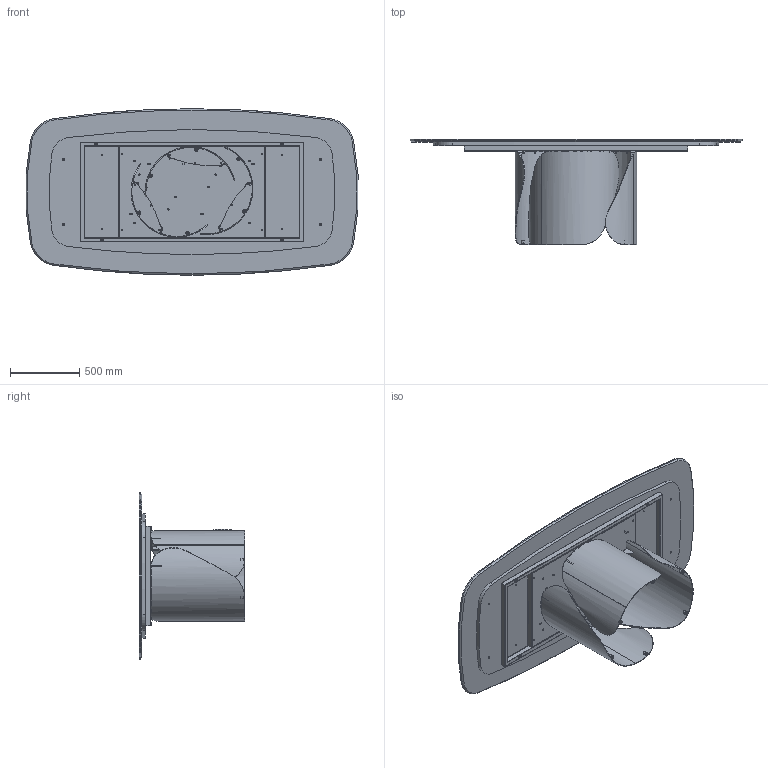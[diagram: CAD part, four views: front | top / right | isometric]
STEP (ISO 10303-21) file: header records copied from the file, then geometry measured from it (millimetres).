
FILE_DESCRIPTION (( 'STEP AP203' ), '1' );
FILE_NAME ('ON43M.STEP', '2024-08-06T13:55:23', ( '' ), ( '' ), 'SwSTEP 2.0', 'SolidWorks 2022', '' );
FILE_SCHEMA (( 'CONFIG_CONTROL_DESIGN' ));
Length unit declared in the file: millimetre
Products named in the file (17): TRUXXXXXX-00-NOBILITATO GR CON SUPP TRUCIOLARE SP. 25_TRU00007_2100x900; OND000000-03-ONDA BASE GREZZA; COLLO BASE ONDA SINGOLA CON FERRAMENTA; M8xXXmm_M8x55mm; TTAV0601_02-00-VASSOIO TAVOLI PLAI ONDA NOA 240; ON43M; OND000000_03-00-LAMIERA CURVATA PRINCIPALE_OND00000X-00-ONDA BASE GREZZA PROTOTIPO; M4XMXX-00-Piani Sagomati in marmo_2400x1200; rondella M8_8X24; TTAV0601-00-TELAIO X TAVOLI PLAI ONDA NOA 240cm_TTAV06; M8xXXmm_M8x20mm; OND000000_01-00-PIASTRA SUPERIORE BASE ONDA; OND000000_02-00-CILINDRO DI FISSAGGIO Ø25X17 M8; COLLO TELAIO UNIVERSALE TTAV0601 CON FERRAMENTA_FERRAMENTA MTG TOP LEGNO-MARMO-KING; PIEDINO PER ONDA; TTAV0601_01-00-STRUTTURA X TAVOLI PLAI ONDA NOA 240; M4X-00-Piani Sagomati in marmo_2400 x 1200
Assembly tree (49 placements, depth 4):
  ON43M
    COLLO TELAIO UNIVERSALE TTAV0601 CON FERRAMENTA_FERRAMENTA MTG TOP LEGNO-MARMO-KING
      TTAV0601-00-TELAIO X TAVOLI PLAI ONDA NOA 240cm_TTAV06
        TTAV0601_02-00-VASSOIO TAVOLI PLAI ONDA NOA 240
        TTAV0601_01-00-STRUTTURA X TAVOLI PLAI ONDA NOA 240
      rondella M8_8X24  x4
      M8xXXmm_M8x55mm  x4
    COLLO BASE ONDA SINGOLA CON FERRAMENTA  x3
      OND000000-03-ONDA BASE GREZZA
        OND000000_03-00-LAMIERA CURVATA PRINCIPALE_OND00000X-00-ONDA BASE GREZZA PROTOTIPO
        OND000000_01-00-PIASTRA SUPERIORE BASE ONDA
        OND000000_02-00-CILINDRO DI FISSAGGIO Ø25X17 M8  x2
      PIEDINO PER ONDA
    rondella M8_8X24  x12
    M8xXXmm_M8x20mm  x12
    M4XMXX-00-Piani Sagomati in marmo_2400x1200
      M4X-00-Piani Sagomati in marmo_2400 x 1200
      TRUXXXXXX-00-NOBILITATO GR CON SUPP TRUCIOLARE SP. 25_TRU00007_2100x900
Bounding box: 2391.9 x 761 x 1200 mm (x, y, z)
Volume: 108702216.4 mm3; surface area: 15274551.4 mm2
Topology: 60 solids, 60 shells, 1780 faces, 4068 edges, 2415 vertices
Faces by surface type: plane 620, cylinder 565, cone 311, torus 216, bspline 60, sphere 8
Entity records: 25321 total; most frequent: CARTESIAN_POINT 5498, DIRECTION 3770, ORIENTED_EDGE 3400, EDGE_CURVE 1700, AXIS2_PLACEMENT_3D 1439, VERTEX_POINT 1039, LINE 892, VECTOR 892
